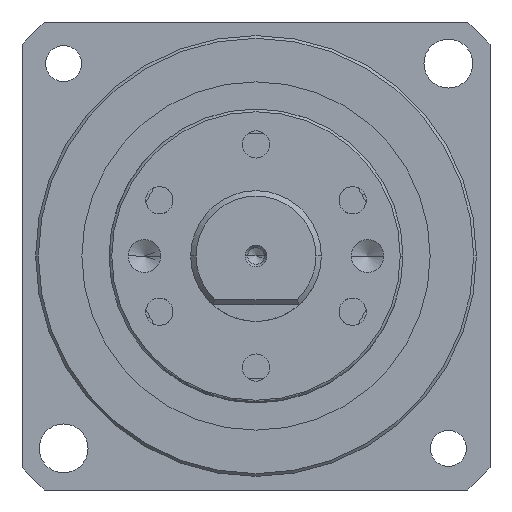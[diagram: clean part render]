
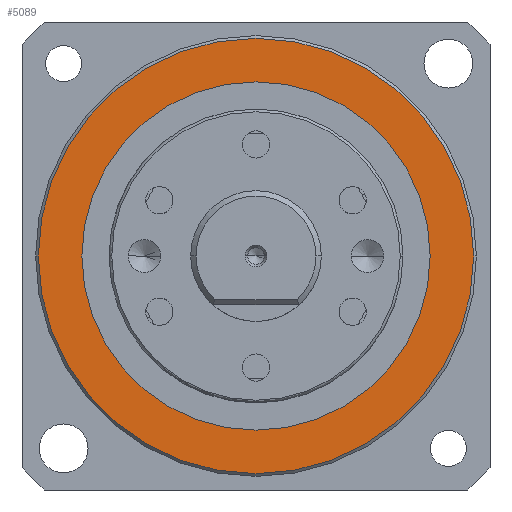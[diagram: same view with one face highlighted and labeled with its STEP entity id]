
A CAD part, left-side view. The second image highlights one B-rep face of the part: STEP entity #5089.
In plain terms, the highlighted planar face has unit normal (-1, 0, 0).
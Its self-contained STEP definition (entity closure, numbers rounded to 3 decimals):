
#411 = VERTEX_POINT ( 'NONE', #18237 ) ;
#821 = CARTESIAN_POINT ( 'NONE',  ( -29.5, 20., 0. ) ) ;
#861 = CIRCLE ( 'NONE', #19788, 16. ) ;
#1527 = AXIS2_PLACEMENT_3D ( 'NONE', #12183, #2642, #13752 ) ;
#2323 = CIRCLE ( 'NONE', #1527, 16. ) ;
#2471 = DIRECTION ( 'NONE',  ( 0., -1., 0. ) ) ;
#2642 = DIRECTION ( 'NONE',  ( 1., 0., 0. ) ) ;
#3366 = CARTESIAN_POINT ( 'NONE',  ( -29.5, 16., 0. ) ) ;
#3580 = ORIENTED_EDGE ( 'NONE', *, *, #11067, .F. ) ;
#3618 = DIRECTION ( 'NONE',  ( 1., 0., 0. ) ) ;
#3940 = DIRECTION ( 'NONE',  ( 1., 0., 0. ) ) ;
#4447 = ORIENTED_EDGE ( 'NONE', *, *, #6043, .T. ) ;
#5089 = ADVANCED_FACE ( 'NONE', ( #10273, #8690 ), #18200, .T. ) ;
#5311 = EDGE_CURVE ( 'NONE', #18160, #11760, #861, .T. ) ;
#5773 = CARTESIAN_POINT ( 'NONE',  ( -29.5, 0., 0. ) ) ;
#6043 = EDGE_CURVE ( 'NONE', #11760, #18160, #2323, .T. ) ;
#6906 = ORIENTED_EDGE ( 'NONE', *, *, #5311, .T. ) ;
#7206 = CIRCLE ( 'NONE', #11656, 20. ) ;
#7344 = DIRECTION ( 'NONE',  ( 0., 1., 0. ) ) ;
#8586 = EDGE_LOOP ( 'NONE', ( #6906, #4447 ) ) ;
#8690 = FACE_BOUND ( 'NONE', #8586, .T. ) ;
#9698 = AXIS2_PLACEMENT_3D ( 'NONE', #821, #12011, #2471 ) ;
#10213 = EDGE_LOOP ( 'NONE', ( #17784, #3580 ) ) ;
#10273 = FACE_OUTER_BOUND ( 'NONE', #10213, .T. ) ;
#10900 = CARTESIAN_POINT ( 'NONE',  ( -29.5, -20., 0. ) ) ;
#11067 = EDGE_CURVE ( 'NONE', #17293, #411, #7206, .T. ) ;
#11656 = AXIS2_PLACEMENT_3D ( 'NONE', #13405, #3940, #14977 ) ;
#11760 = VERTEX_POINT ( 'NONE', #12002 ) ;
#12002 = CARTESIAN_POINT ( 'NONE',  ( -29.5, -16., 0. ) ) ;
#12011 = DIRECTION ( 'NONE',  ( -1., 0., 0. ) ) ;
#12183 = CARTESIAN_POINT ( 'NONE',  ( -29.5, 0., 0. ) ) ;
#13099 = CARTESIAN_POINT ( 'NONE',  ( -29.5, 0., 0. ) ) ;
#13405 = CARTESIAN_POINT ( 'NONE',  ( -29.5, 0., 0. ) ) ;
#13752 = DIRECTION ( 'NONE',  ( 0., 1., 0. ) ) ;
#14674 = DIRECTION ( 'NONE',  ( 0., 1., 0. ) ) ;
#14977 = DIRECTION ( 'NONE',  ( 0., 1., 0. ) ) ;
#16725 = DIRECTION ( 'NONE',  ( 1., 0., 0. ) ) ;
#17251 = CIRCLE ( 'NONE', #20304, 20. ) ;
#17293 = VERTEX_POINT ( 'NONE', #10900 ) ;
#17784 = ORIENTED_EDGE ( 'NONE', *, *, #17792, .F. ) ;
#17792 = EDGE_CURVE ( 'NONE', #411, #17293, #17251, .T. ) ;
#18160 = VERTEX_POINT ( 'NONE', #3366 ) ;
#18200 = PLANE ( 'NONE',  #9698 ) ;
#18237 = CARTESIAN_POINT ( 'NONE',  ( -29.5, 20., 0. ) ) ;
#19788 = AXIS2_PLACEMENT_3D ( 'NONE', #13099, #3618, #14674 ) ;
#20304 = AXIS2_PLACEMENT_3D ( 'NONE', #5773, #16725, #7344 ) ;
